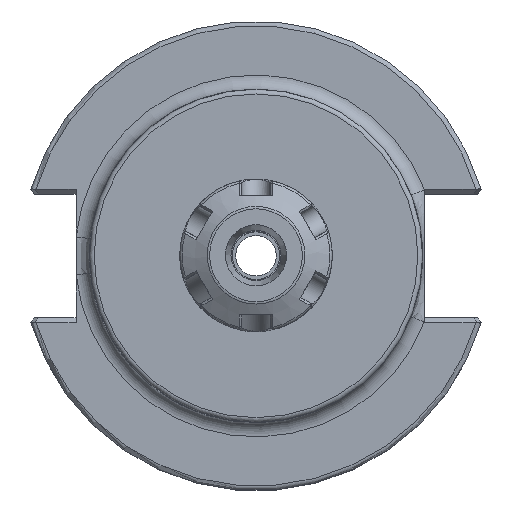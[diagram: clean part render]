
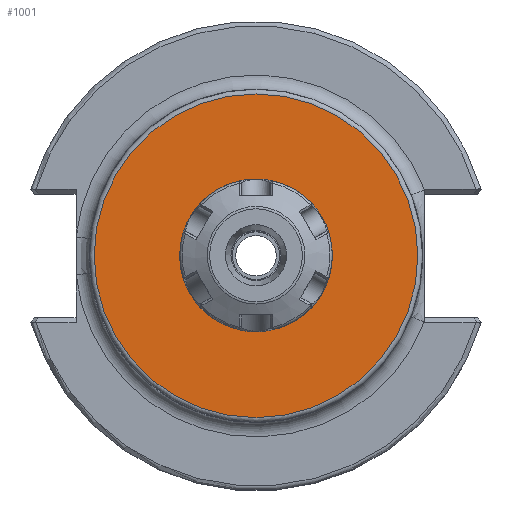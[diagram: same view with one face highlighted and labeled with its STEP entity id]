
A CAD part, top view. The second image highlights one B-rep face of the part: STEP entity #1001.
In plain terms, the highlighted planar face has unit normal (0, 0, 1).
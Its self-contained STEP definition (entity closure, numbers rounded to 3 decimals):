
#444=PLANE('',#3432);
#811=FACE_BOUND('',#1373,.T.);
#812=FACE_BOUND('',#1374,.T.);
#1001=ADVANCED_FACE('',(#811,#812),#444,.T.);
#1373=EDGE_LOOP('',(#2196));
#1374=EDGE_LOOP('',(#2197));
#2196=ORIENTED_EDGE('',*,*,#3073,.T.);
#2197=ORIENTED_EDGE('',*,*,#3074,.T.);
#2692=VERTEX_POINT('',#6435);
#2693=VERTEX_POINT('',#6437);
#3073=EDGE_CURVE('',#2692,#2692,#3230,.T.);
#3074=EDGE_CURVE('',#2693,#2693,#3231,.T.);
#3230=CIRCLE('',#3430,15.);
#3231=CIRCLE('',#3431,33.925);
#3430=AXIS2_PLACEMENT_3D('',#6434,#3948,#3949);
#3431=AXIS2_PLACEMENT_3D('',#6436,#3950,#3951);
#3432=AXIS2_PLACEMENT_3D('',#6438,#3952,#3953);
#3948=DIRECTION('',(0.,0.,-1.));
#3949=DIRECTION('',(1.,0.,0.));
#3950=DIRECTION('',(0.,0.,1.));
#3951=DIRECTION('',(1.,0.,0.));
#3952=DIRECTION('',(0.,0.,1.));
#3953=DIRECTION('',(-1.,0.,0.));
#6434=CARTESIAN_POINT('',(0.,0.,136.65));
#6435=CARTESIAN_POINT('',(15.,0.,136.65));
#6436=CARTESIAN_POINT('',(0.,0.,136.65));
#6437=CARTESIAN_POINT('',(33.925,0.,136.65));
#6438=CARTESIAN_POINT('',(0.,-34.925,136.65));
